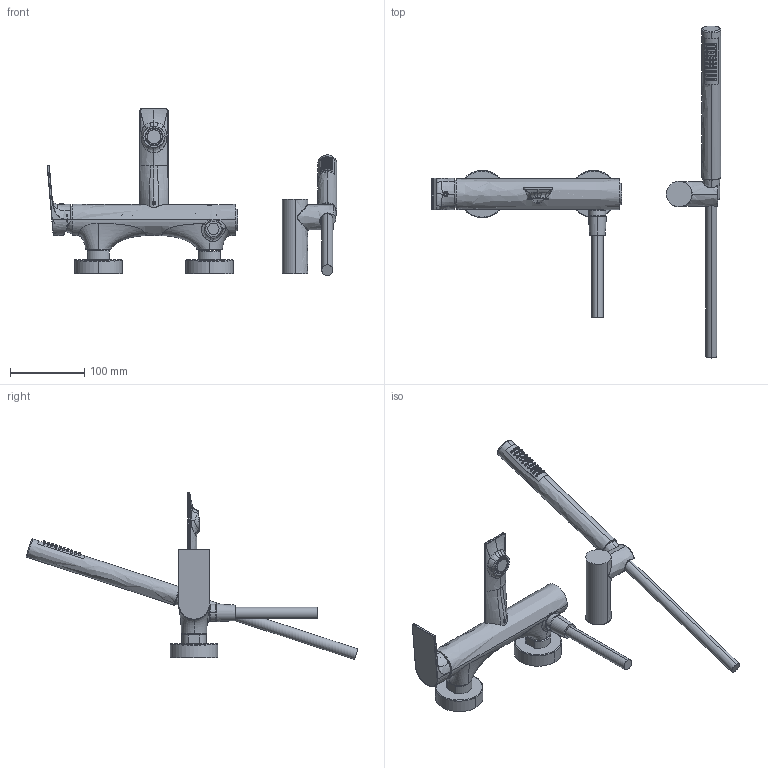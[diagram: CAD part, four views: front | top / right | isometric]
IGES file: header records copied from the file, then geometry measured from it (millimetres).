
Start section:  PTC IGES file: 78002.igs
Global section: file name: 78002.igs; native system: Creo Parametric by PTC Inc.; preprocessor: 2022014; author: carloff; organization: Unknown; date: 20240912.092721; units: millimetre
Bounding box: 390.12 x 446.7 x 224.72 mm (x, y, z)
Surface area: 220388.2 mm2 (no closed solid volume)
Topology: 0 solids, 0 shells, 1191 faces, 5572 edges, 5564 vertices
Faces by surface type: revolution 666, bspline 521, extrusion 4
